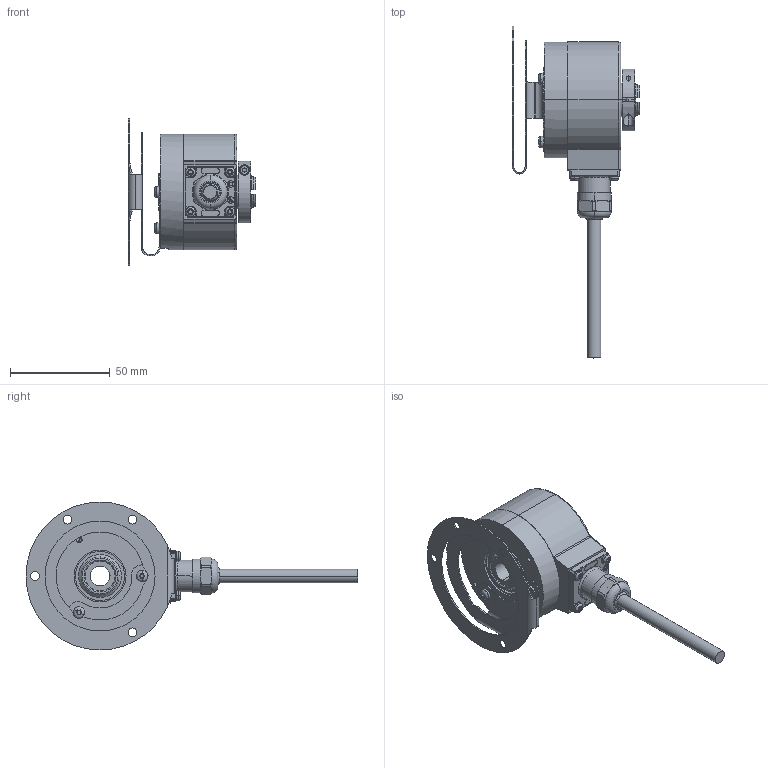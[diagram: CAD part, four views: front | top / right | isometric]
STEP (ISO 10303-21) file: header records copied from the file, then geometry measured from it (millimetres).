
FILE_DESCRIPTION (( 'STEP AP203' ), '1' );
FILE_NAME ('K58I.OXX.XXXXX.XC23510.6XR11.XXXX.step', '2025-12-08T12:20:39', ( '' ), ( '' ), 'SwSTEP 2.0', 'SolidWorks 2021', '' );
FILE_SCHEMA (( 'CONFIG_CONTROL_DESIGN' ));
Length unit declared in the file: millimetre
Products named in the file (1): K58I.OXX.XXXXX.XC23510.6XR11.XXXX
Bounding box: 63.59 x 166 x 74 mm (x, y, z)
Volume: 118135.1 mm3; surface area: 49800.4 mm2
Topology: 11 solids, 11 shells, 789 faces, 2042 edges, 1292 vertices
Faces by surface type: cylinder 396, plane 214, cone 77, bspline 44, torus 42, sphere 16
Entity records: 26908 total; most frequent: CARTESIAN_POINT 7524, DIRECTION 4153, ORIENTED_EDGE 4056, EDGE_CURVE 2028, AXIS2_PLACEMENT_3D 1639, VERTEX_POINT 1292, CIRCLE 893, LINE 875
